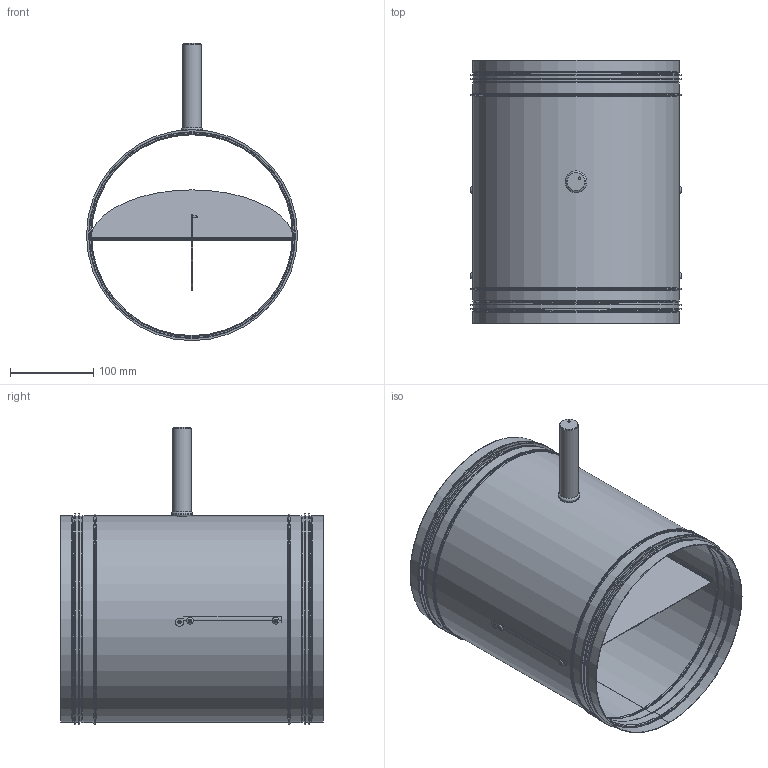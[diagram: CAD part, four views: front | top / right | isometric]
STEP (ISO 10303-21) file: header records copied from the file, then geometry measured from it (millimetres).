
FILE_DESCRIPTION(/* description */ (''),/* implementation_level */ '2;1');
FILE_NAME(/* name */ 'C:\Users\bonsen\Documents\Vault\Daten\BIM_Vorbereitung\VRK\Step Daten\233_VRK\233_250_VRK.stp',/* time_stamp */ '2022-02-03T08:38:23+01:00',/* author */ ('bonsen'),/* organization */ ('Aerotechnik E. Siegwart GmbH'),/* preprocessor_version */ 'ST-DEVELOPER v18.1',/* originating_system */ 'Autodesk Inventor 2020',/* authorisation */ '');
FILE_SCHEMA (('AUTOMOTIVE_DESIGN { 1 0 10303 214 3 1 1 }'));
Length unit declared in the file: millimetre
Products named in the file (5): VRK_80-400; Rohrkörper; Daempferplatte; Verstelleinheit; Lippengummi
Assembly tree (5 placements, depth 2):
  VRK_80-400
    Rohrkörper
    Daempferplatte
    Verstelleinheit
    Lippengummi  x2
Bounding box: 253 x 315 x 356.5 mm (x, y, z)
Volume: 303064.7 mm3; surface area: 735596.1 mm2
Topology: 7 solids, 7 shells, 258 faces, 567 edges, 331 vertices
Faces by surface type: plane 151, cylinder 62, torus 42, bspline 2, cone 1
Full cylindrical faces by diameter (mm): 2 x5, 3 x2, 4 x2, 8 x4, 21.5 x1, 22 x1, 26 x1, 240.74 x2, 242 x2, 243 x2, 246.74 x5, 247 x6, 248 x5, 250.74 x2, 252 x2, 253 x4
Entity records: 7050 total; most frequent: DIRECTION 1314, CARTESIAN_POINT 1240, ORIENTED_EDGE 1084, EDGE_CURVE 542, AXIS2_PLACEMENT_3D 527, VERTEX_POINT 312, CIRCLE 267, EDGE_LOOP 264
